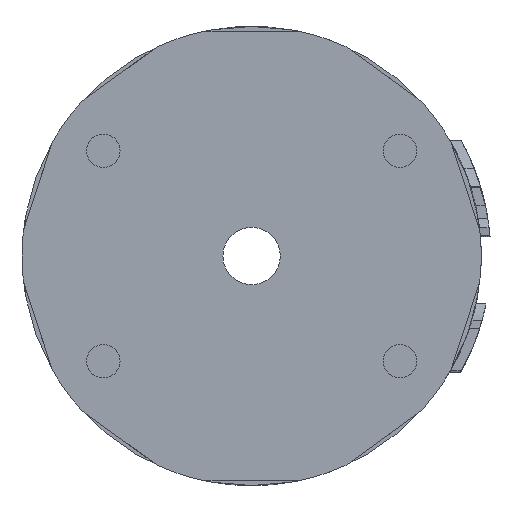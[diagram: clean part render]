
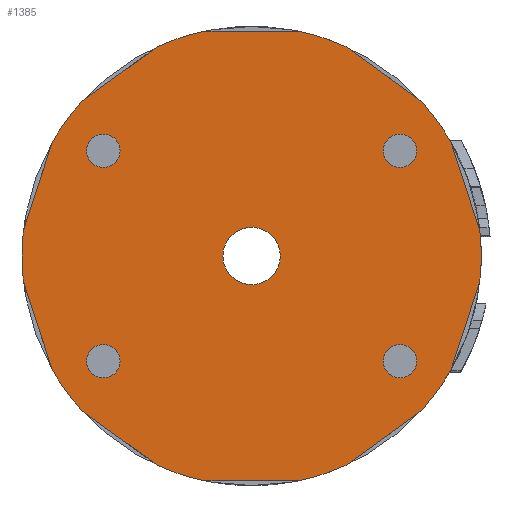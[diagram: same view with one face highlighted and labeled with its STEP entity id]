
A CAD part, front view. The second image highlights one B-rep face of the part: STEP entity #1385.
In plain terms, the highlighted planar face has unit normal (0, -1, 0).
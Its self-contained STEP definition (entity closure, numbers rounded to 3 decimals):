
#207=FACE_BOUND('',#2718,.T.);
#208=FACE_BOUND('',#2719,.T.);
#209=FACE_BOUND('',#2720,.T.);
#210=FACE_BOUND('',#2721,.T.);
#211=FACE_BOUND('',#2722,.T.);
#212=FACE_BOUND('',#2723,.T.);
#418=CIRCLE('',#8101,24.);
#419=CIRCLE('',#8102,24.);
#420=CIRCLE('',#8103,24.);
#421=CIRCLE('',#8104,24.);
#422=CIRCLE('',#8105,24.);
#423=CIRCLE('',#8106,24.);
#424=CIRCLE('',#8107,24.);
#425=CIRCLE('',#8108,24.);
#426=CIRCLE('',#8109,24.);
#427=CIRCLE('',#8110,24.);
#428=CIRCLE('',#8111,3.);
#429=CIRCLE('',#8112,3.);
#430=CIRCLE('',#8113,1.75);
#431=CIRCLE('',#8114,1.75);
#432=CIRCLE('',#8115,1.75);
#433=CIRCLE('',#8116,1.75);
#434=CIRCLE('',#8117,1.75);
#435=CIRCLE('',#8118,1.75);
#436=CIRCLE('',#8119,1.75);
#437=CIRCLE('',#8120,1.75);
#811=PLANE('',#8121);
#1026=LINE('',#29224,#1895);
#1027=LINE('',#29228,#1896);
#1028=LINE('',#29232,#1897);
#1029=LINE('',#29236,#1898);
#1030=LINE('',#29240,#1899);
#1031=LINE('',#29244,#1900);
#1032=LINE('',#29248,#1901);
#1033=LINE('',#29252,#1902);
#1034=LINE('',#29256,#1903);
#1035=LINE('',#29260,#1904);
#1385=ADVANCED_FACE('',(#207,#208,#209,#210,#211,#212),#811,.F.);
#1895=VECTOR('',#9260,1.);
#1896=VECTOR('',#9263,1.);
#1897=VECTOR('',#9266,1.);
#1898=VECTOR('',#9269,1.);
#1899=VECTOR('',#9272,1.);
#1900=VECTOR('',#9275,1.);
#1901=VECTOR('',#9278,1.);
#1902=VECTOR('',#9281,1.);
#1903=VECTOR('',#9284,1.);
#1904=VECTOR('',#9287,1.);
#2718=EDGE_LOOP('',(#4315,#4316,#4317,#4318,#4319,#4320,#4321,#4322,#4323,
#4324,#4325,#4326,#4327,#4328,#4329,#4330,#4331,#4332,#4333,#4334));
#2719=EDGE_LOOP('',(#4335,#4336));
#2720=EDGE_LOOP('',(#4337,#4338));
#2721=EDGE_LOOP('',(#4339,#4340));
#2722=EDGE_LOOP('',(#4341,#4342));
#2723=EDGE_LOOP('',(#4343,#4344));
#4315=ORIENTED_EDGE('',*,*,#6783,.T.);
#4316=ORIENTED_EDGE('',*,*,#6784,.F.);
#4317=ORIENTED_EDGE('',*,*,#6785,.T.);
#4318=ORIENTED_EDGE('',*,*,#6786,.F.);
#4319=ORIENTED_EDGE('',*,*,#6787,.T.);
#4320=ORIENTED_EDGE('',*,*,#6788,.F.);
#4321=ORIENTED_EDGE('',*,*,#6789,.T.);
#4322=ORIENTED_EDGE('',*,*,#6790,.F.);
#4323=ORIENTED_EDGE('',*,*,#6791,.T.);
#4324=ORIENTED_EDGE('',*,*,#6792,.F.);
#4325=ORIENTED_EDGE('',*,*,#6793,.T.);
#4326=ORIENTED_EDGE('',*,*,#6794,.F.);
#4327=ORIENTED_EDGE('',*,*,#6795,.T.);
#4328=ORIENTED_EDGE('',*,*,#6796,.F.);
#4329=ORIENTED_EDGE('',*,*,#6797,.T.);
#4330=ORIENTED_EDGE('',*,*,#6798,.F.);
#4331=ORIENTED_EDGE('',*,*,#6799,.T.);
#4332=ORIENTED_EDGE('',*,*,#6800,.F.);
#4333=ORIENTED_EDGE('',*,*,#6801,.T.);
#4334=ORIENTED_EDGE('',*,*,#6802,.F.);
#4335=ORIENTED_EDGE('',*,*,#6803,.F.);
#4336=ORIENTED_EDGE('',*,*,#6804,.F.);
#4337=ORIENTED_EDGE('',*,*,#6805,.F.);
#4338=ORIENTED_EDGE('',*,*,#6806,.F.);
#4339=ORIENTED_EDGE('',*,*,#6807,.T.);
#4340=ORIENTED_EDGE('',*,*,#6808,.T.);
#4341=ORIENTED_EDGE('',*,*,#6809,.F.);
#4342=ORIENTED_EDGE('',*,*,#6810,.F.);
#4343=ORIENTED_EDGE('',*,*,#6811,.T.);
#4344=ORIENTED_EDGE('',*,*,#6812,.T.);
#5776=VERTEX_POINT('',#29222);
#5777=VERTEX_POINT('',#29223);
#5778=VERTEX_POINT('',#29225);
#5779=VERTEX_POINT('',#29227);
#5780=VERTEX_POINT('',#29229);
#5781=VERTEX_POINT('',#29231);
#5782=VERTEX_POINT('',#29233);
#5783=VERTEX_POINT('',#29235);
#5784=VERTEX_POINT('',#29237);
#5785=VERTEX_POINT('',#29239);
#5786=VERTEX_POINT('',#29241);
#5787=VERTEX_POINT('',#29243);
#5788=VERTEX_POINT('',#29245);
#5789=VERTEX_POINT('',#29247);
#5790=VERTEX_POINT('',#29249);
#5791=VERTEX_POINT('',#29251);
#5792=VERTEX_POINT('',#29253);
#5793=VERTEX_POINT('',#29255);
#5794=VERTEX_POINT('',#29257);
#5795=VERTEX_POINT('',#29259);
#5796=VERTEX_POINT('',#29262);
#5797=VERTEX_POINT('',#29263);
#5798=VERTEX_POINT('',#29266);
#5799=VERTEX_POINT('',#29267);
#5800=VERTEX_POINT('',#29270);
#5801=VERTEX_POINT('',#29271);
#5802=VERTEX_POINT('',#29274);
#5803=VERTEX_POINT('',#29275);
#5804=VERTEX_POINT('',#29278);
#5805=VERTEX_POINT('',#29279);
#6783=EDGE_CURVE('',#5776,#5777,#418,.T.);
#6784=EDGE_CURVE('',#5778,#5777,#1026,.T.);
#6785=EDGE_CURVE('',#5778,#5779,#419,.T.);
#6786=EDGE_CURVE('',#5780,#5779,#1027,.T.);
#6787=EDGE_CURVE('',#5780,#5781,#420,.T.);
#6788=EDGE_CURVE('',#5782,#5781,#1028,.T.);
#6789=EDGE_CURVE('',#5782,#5783,#421,.T.);
#6790=EDGE_CURVE('',#5784,#5783,#1029,.T.);
#6791=EDGE_CURVE('',#5784,#5785,#422,.T.);
#6792=EDGE_CURVE('',#5786,#5785,#1030,.T.);
#6793=EDGE_CURVE('',#5786,#5787,#423,.T.);
#6794=EDGE_CURVE('',#5788,#5787,#1031,.T.);
#6795=EDGE_CURVE('',#5788,#5789,#424,.T.);
#6796=EDGE_CURVE('',#5790,#5789,#1032,.T.);
#6797=EDGE_CURVE('',#5790,#5791,#425,.T.);
#6798=EDGE_CURVE('',#5792,#5791,#1033,.T.);
#6799=EDGE_CURVE('',#5792,#5793,#426,.T.);
#6800=EDGE_CURVE('',#5794,#5793,#1034,.T.);
#6801=EDGE_CURVE('',#5794,#5795,#427,.T.);
#6802=EDGE_CURVE('',#5776,#5795,#1035,.T.);
#6803=EDGE_CURVE('',#5796,#5797,#428,.T.);
#6804=EDGE_CURVE('',#5797,#5796,#429,.T.);
#6805=EDGE_CURVE('',#5798,#5799,#430,.T.);
#6806=EDGE_CURVE('',#5799,#5798,#431,.T.);
#6807=EDGE_CURVE('',#5800,#5801,#432,.T.);
#6808=EDGE_CURVE('',#5801,#5800,#433,.T.);
#6809=EDGE_CURVE('',#5802,#5803,#434,.T.);
#6810=EDGE_CURVE('',#5803,#5802,#435,.T.);
#6811=EDGE_CURVE('',#5804,#5805,#436,.T.);
#6812=EDGE_CURVE('',#5805,#5804,#437,.T.);
#8101=AXIS2_PLACEMENT_3D('',#29221,#9258,#9259);
#8102=AXIS2_PLACEMENT_3D('',#29226,#9261,#9262);
#8103=AXIS2_PLACEMENT_3D('',#29230,#9264,#9265);
#8104=AXIS2_PLACEMENT_3D('',#29234,#9267,#9268);
#8105=AXIS2_PLACEMENT_3D('',#29238,#9270,#9271);
#8106=AXIS2_PLACEMENT_3D('',#29242,#9273,#9274);
#8107=AXIS2_PLACEMENT_3D('',#29246,#9276,#9277);
#8108=AXIS2_PLACEMENT_3D('',#29250,#9279,#9280);
#8109=AXIS2_PLACEMENT_3D('',#29254,#9282,#9283);
#8110=AXIS2_PLACEMENT_3D('',#29258,#9285,#9286);
#8111=AXIS2_PLACEMENT_3D('',#29261,#9288,#9289);
#8112=AXIS2_PLACEMENT_3D('',#29264,#9290,#9291);
#8113=AXIS2_PLACEMENT_3D('',#29265,#9292,#9293);
#8114=AXIS2_PLACEMENT_3D('',#29268,#9294,#9295);
#8115=AXIS2_PLACEMENT_3D('',#29269,#9296,#9297);
#8116=AXIS2_PLACEMENT_3D('',#29272,#9298,#9299);
#8117=AXIS2_PLACEMENT_3D('',#29273,#9300,#9301);
#8118=AXIS2_PLACEMENT_3D('',#29276,#9302,#9303);
#8119=AXIS2_PLACEMENT_3D('',#29277,#9304,#9305);
#8120=AXIS2_PLACEMENT_3D('',#29280,#9306,#9307);
#8121=AXIS2_PLACEMENT_3D('',#29281,#9308,#9309);
#9258=DIRECTION('',(0.,-1.,0.));
#9259=DIRECTION('',(-0.74,0.,0.673));
#9260=DIRECTION('',(0.309,0.,0.951));
#9261=DIRECTION('',(0.,-1.,0.));
#9262=DIRECTION('',(-0.994,0.,0.109));
#9263=DIRECTION('',(-0.309,0.,0.951));
#9264=DIRECTION('',(0.,-1.,0.));
#9265=DIRECTION('',(-0.868,0.,-0.496));
#9266=DIRECTION('',(-0.809,0.,0.588));
#9267=DIRECTION('',(0.,-1.,0.));
#9268=DIRECTION('',(-0.411,0.,-0.912));
#9269=DIRECTION('',(-1.,0.,0.));
#9270=DIRECTION('',(0.,-1.,0.));
#9271=DIRECTION('',(0.203,0.,-0.979));
#9272=DIRECTION('',(-0.809,0.,-0.588));
#9273=DIRECTION('',(0.,-1.,0.));
#9274=DIRECTION('',(0.74,0.,-0.673));
#9275=DIRECTION('',(-0.309,0.,-0.951));
#9276=DIRECTION('',(0.,-1.,0.));
#9277=DIRECTION('',(0.994,0.,-0.109));
#9278=DIRECTION('',(0.309,0.,-0.951));
#9279=DIRECTION('',(0.,-1.,0.));
#9280=DIRECTION('',(0.868,0.,0.496));
#9281=DIRECTION('',(0.809,0.,-0.588));
#9282=DIRECTION('',(0.,-1.,0.));
#9283=DIRECTION('',(0.411,0.,0.912));
#9284=DIRECTION('',(1.,0.,0.));
#9285=DIRECTION('',(0.,-1.,0.));
#9286=DIRECTION('',(-0.203,0.,0.979));
#9287=DIRECTION('',(0.809,0.,0.588));
#9288=DIRECTION('',(0.,-1.,0.));
#9289=DIRECTION('',(-1.,0.,0.));
#9290=DIRECTION('',(0.,-1.,0.));
#9291=DIRECTION('',(1.,0.,0.));
#9292=DIRECTION('',(0.,-1.,0.));
#9293=DIRECTION('',(-1.,0.,0.));
#9294=DIRECTION('',(0.,-1.,0.));
#9295=DIRECTION('',(1.,0.,0.));
#9296=DIRECTION('',(0.,1.,0.));
#9297=DIRECTION('',(1.,0.,0.));
#9298=DIRECTION('',(0.,1.,0.));
#9299=DIRECTION('',(-1.,0.,0.));
#9300=DIRECTION('',(0.,-1.,0.));
#9301=DIRECTION('',(1.,0.,0.));
#9302=DIRECTION('',(0.,-1.,0.));
#9303=DIRECTION('',(-1.,0.,0.));
#9304=DIRECTION('',(0.,1.,0.));
#9305=DIRECTION('',(-1.,0.,0.));
#9306=DIRECTION('',(0.,1.,0.));
#9307=DIRECTION('',(1.,0.,0.));
#9308=DIRECTION('',(0.,1.,0.));
#9309=DIRECTION('',(-1.,0.,0.));
#29221=CARTESIAN_POINT('',(0.,0.,0.));
#29222=CARTESIAN_POINT('',(-17.756,0.,16.147));
#29223=CARTESIAN_POINT('',(-20.844,0.,11.897));
#29224=CARTESIAN_POINT('',(-23.856,0.,2.627));
#29225=CARTESIAN_POINT('',(-23.856,0.,2.627));
#29226=CARTESIAN_POINT('',(0.,0.,0.));
#29227=CARTESIAN_POINT('',(-23.856,0.,-2.627));
#29228=CARTESIAN_POINT('',(-20.844,0.,-11.897));
#29229=CARTESIAN_POINT('',(-20.844,0.,-11.897));
#29230=CARTESIAN_POINT('',(0.,0.,0.));
#29231=CARTESIAN_POINT('',(-17.756,0.,-16.147));
#29232=CARTESIAN_POINT('',(-9.87,0.,-21.876));
#29233=CARTESIAN_POINT('',(-9.87,0.,-21.876));
#29234=CARTESIAN_POINT('',(0.,0.,0.));
#29235=CARTESIAN_POINT('',(-4.873,0.,-23.5));
#29236=CARTESIAN_POINT('',(4.873,0.,-23.5));
#29237=CARTESIAN_POINT('',(4.873,0.,-23.5));
#29238=CARTESIAN_POINT('',(0.,0.,0.));
#29239=CARTESIAN_POINT('',(9.87,0.,-21.876));
#29240=CARTESIAN_POINT('',(17.756,0.,-16.147));
#29241=CARTESIAN_POINT('',(17.756,0.,-16.147));
#29242=CARTESIAN_POINT('',(0.,0.,0.));
#29243=CARTESIAN_POINT('',(20.844,0.,-11.897));
#29244=CARTESIAN_POINT('',(23.856,0.,-2.627));
#29245=CARTESIAN_POINT('',(23.856,0.,-2.627));
#29246=CARTESIAN_POINT('',(0.,0.,0.));
#29247=CARTESIAN_POINT('',(23.856,0.,2.627));
#29248=CARTESIAN_POINT('',(20.844,0.,11.897));
#29249=CARTESIAN_POINT('',(20.844,0.,11.897));
#29250=CARTESIAN_POINT('',(0.,0.,0.));
#29251=CARTESIAN_POINT('',(17.756,0.,16.147));
#29252=CARTESIAN_POINT('',(9.87,0.,21.876));
#29253=CARTESIAN_POINT('',(9.87,0.,21.876));
#29254=CARTESIAN_POINT('',(0.,0.,0.));
#29255=CARTESIAN_POINT('',(4.873,0.,23.5));
#29256=CARTESIAN_POINT('',(-4.873,0.,23.5));
#29257=CARTESIAN_POINT('',(-4.873,0.,23.5));
#29258=CARTESIAN_POINT('',(0.,0.,0.));
#29259=CARTESIAN_POINT('',(-9.87,0.,21.876));
#29260=CARTESIAN_POINT('',(-17.756,0.,16.147));
#29261=CARTESIAN_POINT('',(0.,0.,0.));
#29262=CARTESIAN_POINT('',(-3.,0.,0.));
#29263=CARTESIAN_POINT('',(3.,0.,0.));
#29264=CARTESIAN_POINT('',(0.,0.,0.));
#29265=CARTESIAN_POINT('',(15.5,0.,11.));
#29266=CARTESIAN_POINT('',(13.75,0.,11.));
#29267=CARTESIAN_POINT('',(17.25,0.,11.));
#29268=CARTESIAN_POINT('',(15.5,0.,11.));
#29269=CARTESIAN_POINT('',(-15.5,0.,11.));
#29270=CARTESIAN_POINT('',(-13.75,0.,11.));
#29271=CARTESIAN_POINT('',(-17.25,0.,11.));
#29272=CARTESIAN_POINT('',(-15.5,0.,11.));
#29273=CARTESIAN_POINT('',(-15.5,0.,-11.));
#29274=CARTESIAN_POINT('',(-13.75,0.,-11.));
#29275=CARTESIAN_POINT('',(-17.25,0.,-11.));
#29276=CARTESIAN_POINT('',(-15.5,0.,-11.));
#29277=CARTESIAN_POINT('',(15.5,0.,-11.));
#29278=CARTESIAN_POINT('',(13.75,0.,-11.));
#29279=CARTESIAN_POINT('',(17.25,0.,-11.));
#29280=CARTESIAN_POINT('',(15.5,0.,-11.));
#29281=CARTESIAN_POINT('',(0.,0.,0.));
